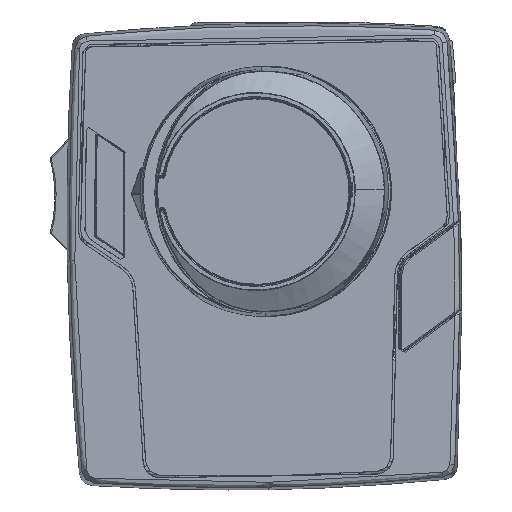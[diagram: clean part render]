
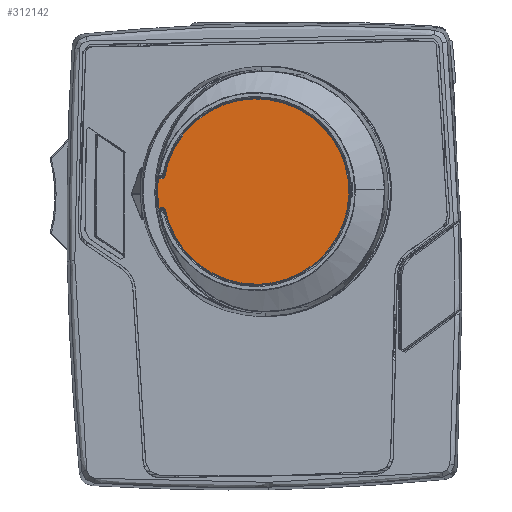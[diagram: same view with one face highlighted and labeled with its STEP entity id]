
A CAD part, front view. The second image highlights one B-rep face of the part: STEP entity #312142.
In plain terms, the highlighted planar face has unit normal (0, -1, 0) as drawn and (0, 0, -1) by its records, which use the part's own axes.
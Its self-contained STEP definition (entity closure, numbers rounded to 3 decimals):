
#21890 = CARTESIAN_POINT ( 'NONE',  ( 26.951, 18.787, 93.5 ) ) ;
#33717 = ORIENTED_EDGE ( 'NONE', *, *, #77143, .F. ) ;
#35346 = DIRECTION ( 'NONE',  ( 0., 1., 0. ) ) ;
#39954 = VECTOR ( 'NONE', #513714, 1000. ) ;
#66555 = CARTESIAN_POINT ( 'NONE',  ( 17.303, 20.467, 93.5 ) ) ;
#74202 = VERTEX_POINT ( 'NONE', #399307 ) ;
#77143 = EDGE_CURVE ( 'NONE', #74202, #470065, #362843, .T. ) ;
#79730 =( BOUNDED_CURVE ( )  B_SPLINE_CURVE ( 3, ( #636434, #578293, #423994, #633042 ),
 .UNSPECIFIED., .F., .F. ) 
 B_SPLINE_CURVE_WITH_KNOTS ( ( 4, 4 ),
 ( 0., 1. ),
 .UNSPECIFIED. ) 
 CURVE ( )  GEOMETRIC_REPRESENTATION_ITEM ( )  RATIONAL_B_SPLINE_CURVE ( ( 1., 0.993, 0.993, 1. ) ) 
 REPRESENTATION_ITEM ( '' )  );
#93711 =( BOUNDED_CURVE ( )  B_SPLINE_CURVE ( 3, ( #547762, #434617, #592320, #287249 ),
 .UNSPECIFIED., .F., .F. ) 
 B_SPLINE_CURVE_WITH_KNOTS ( ( 4, 4 ),
 ( 0., 0.235 ),
 .UNSPECIFIED. ) 
 CURVE ( )  GEOMETRIC_REPRESENTATION_ITEM ( )  RATIONAL_B_SPLINE_CURVE ( ( 1., 0.844, 0.844, 1. ) ) 
 REPRESENTATION_ITEM ( '' )  );
#129583 = CARTESIAN_POINT ( 'NONE',  ( 10.697, 20.467, 93.5 ) ) ;
#162475 = CARTESIAN_POINT ( 'NONE',  ( -5.253, 1.5, 93.5 ) ) ;
#167818 = VERTEX_POINT ( 'NONE', #129583 ) ;
#178834 = EDGE_CURVE ( 'NONE', #602732, #378435, #249972, .T. ) ;
#180194 = CARTESIAN_POINT ( 'NONE',  ( 33.253, 1.5, 93.5 ) ) ;
#185363 = CARTESIAN_POINT ( 'NONE',  ( 17.086, 20.626, 93.5 ) ) ;
#196724 = CARTESIAN_POINT ( 'NONE',  ( 10.697, 20.467, 93.5 ) ) ;
#201019 = CARTESIAN_POINT ( 'NONE',  ( 17.055, 20.763, 93.5 ) ) ;
#211169 = VERTEX_POINT ( 'NONE', #201019 ) ;
#213027 = EDGE_CURVE ( 'NONE', #211169, #440861, #299042, .T. ) ;
#213762 = CARTESIAN_POINT ( 'NONE',  ( 33.253, 1.5, 93.5 ) ) ;
#216588 = EDGE_CURVE ( 'NONE', #378435, #167818, #225766, .T. ) ;
#220744 = CARTESIAN_POINT ( 'NONE',  ( 33.253, 11.292, 93.5 ) ) ;
#222251 = ORIENTED_EDGE ( 'NONE', *, *, #420215, .F. ) ;
#225766 = B_SPLINE_CURVE_WITH_KNOTS ( 'NONE', 3,
 ( #504929, #453435, #247961, #665824, #196724 ),
 .UNSPECIFIED., .F., .F.,
 ( 4, 1, 4 ),
 ( 0., 0.571, 1. ),
 .UNSPECIFIED. ) ;
#234400 = ORIENTED_EDGE ( 'NONE', *, *, #667932, .F. ) ;
#244335 = CARTESIAN_POINT ( 'NONE',  ( 17.055, 12.648, 93.5 ) ) ;
#247961 = CARTESIAN_POINT ( 'NONE',  ( 10.886, 20.544, 93.5 ) ) ;
#249237 = EDGE_CURVE ( 'NONE', #470065, #665537, #270779, .T. ) ;
#249972 = LINE ( 'NONE', #304715, #39954 ) ;
#255900 = CARTESIAN_POINT ( 'NONE',  ( 17.061, 20.694, 93.5 ) ) ;
#268442 = CARTESIAN_POINT ( 'NONE',  ( 33.253, -37.006, 93.5 ) ) ;
#270779 =( BOUNDED_CURVE ( )  B_SPLINE_CURVE ( 3, ( #391699, #220744, #21890, #66555 ),
 .UNSPECIFIED., .F., .F. ) 
 B_SPLINE_CURVE_WITH_KNOTS ( ( 4, 4 ),
 ( 0.765, 1. ),
 .UNSPECIFIED. ) 
 CURVE ( )  GEOMETRIC_REPRESENTATION_ITEM ( )  RATIONAL_B_SPLINE_CURVE ( ( 1., 0.844, 0.844, 1. ) ) 
 REPRESENTATION_ITEM ( '' )  );
#287249 = CARTESIAN_POINT ( 'NONE',  ( -5.253, 1.5, 93.5 ) ) ;
#291303 = ORIENTED_EDGE ( 'NONE', *, *, #178834, .F. ) ;
#299042 = LINE ( 'NONE', #244335, #671160 ) ;
#304715 = CARTESIAN_POINT ( 'NONE',  ( 10.945, 11.888, 93.5 ) ) ;
#312142 = ADVANCED_FACE ( 'NONE', ( #602955 ), #561680, .F. ) ;
#333406 = CARTESIAN_POINT ( 'NONE',  ( 10.945, 20.763, 93.5 ) ) ;
#362843 =( BOUNDED_CURVE ( )  B_SPLINE_CURVE ( 3, ( #162475, #580284, #268442, #213762 ),
 .UNSPECIFIED., .F., .F. ) 
 B_SPLINE_CURVE_WITH_KNOTS ( ( 4, 4 ),
 ( 0.235, 0.765 ),
 .UNSPECIFIED. ) 
 CURVE ( )  GEOMETRIC_REPRESENTATION_ITEM ( )  RATIONAL_B_SPLINE_CURVE ( ( 1., 0.333, 0.333, 1. ) ) 
 REPRESENTATION_ITEM ( '' )  );
#378435 = VERTEX_POINT ( 'NONE', #333406 ) ;
#391699 = CARTESIAN_POINT ( 'NONE',  ( 33.253, 1.5, 93.5 ) ) ;
#395843 = ORIENTED_EDGE ( 'NONE', *, *, #216588, .F. ) ;
#399307 = CARTESIAN_POINT ( 'NONE',  ( -5.253, 1.5, 93.5 ) ) ;
#410042 = CARTESIAN_POINT ( 'NONE',  ( 17.303, 20.467, 93.5 ) ) ;
#413373 = CARTESIAN_POINT ( 'NONE',  ( 17.055, 20.763, 93.5 ) ) ;
#420215 = EDGE_CURVE ( 'NONE', #167818, #74202, #93711, .T. ) ;
#423852 = ORIENTED_EDGE ( 'NONE', *, *, #213027, .F. ) ;
#423994 = CARTESIAN_POINT ( 'NONE',  ( 12.974, 22.079, 93.5 ) ) ;
#431149 = CARTESIAN_POINT ( 'NONE',  ( 17.055, 21.778, 93.5 ) ) ;
#434617 = CARTESIAN_POINT ( 'NONE',  ( 1.049, 18.787, 93.5 ) ) ;
#434801 = CARTESIAN_POINT ( 'NONE',  ( 17.303, 20.467, 93.5 ) ) ;
#440861 = VERTEX_POINT ( 'NONE', #431149 ) ;
#442045 = CARTESIAN_POINT ( 'NONE',  ( 17.055, 20.727, 93.5 ) ) ;
#443378 = ORIENTED_EDGE ( 'NONE', *, *, #581390, .T. ) ;
#453435 = CARTESIAN_POINT ( 'NONE',  ( 10.945, 20.683, 93.5 ) ) ;
#464802 = CARTESIAN_POINT ( 'NONE',  ( 17.172, 20.514, 93.5 ) ) ;
#470065 = VERTEX_POINT ( 'NONE', #180194 ) ;
#477133 = CARTESIAN_POINT ( 'NONE',  ( 10.945, 21.778, 93.5 ) ) ;
#493236 = CARTESIAN_POINT ( 'NONE',  ( 14., 3., 93.5 ) ) ;
#501256 = B_SPLINE_CURVE_WITH_KNOTS ( 'NONE', 3,
 ( #413373, #442045, #255900, #185363, #657828, #464802, #654489, #410042 ),
 .UNSPECIFIED., .F., .F.,
 ( 4, 2, 2, 4 ),
 ( 0., 0.25, 0.5, 1. ),
 .UNSPECIFIED. ) ;
#504929 = CARTESIAN_POINT ( 'NONE',  ( 10.945, 20.763, 93.5 ) ) ;
#513714 = DIRECTION ( 'NONE',  ( 0., -1., 0. ) ) ;
#547762 = CARTESIAN_POINT ( 'NONE',  ( 10.697, 20.467, 93.5 ) ) ;
#548192 = DIRECTION ( 'NONE',  ( 0., 0., 1. ) ) ;
#551607 = DIRECTION ( 'NONE',  ( 1., 0., 0. ) ) ;
#561680 = PLANE ( 'NONE',  #664800 ) ;
#578293 = CARTESIAN_POINT ( 'NONE',  ( 15.026, 22.079, 93.5 ) ) ;
#580284 = CARTESIAN_POINT ( 'NONE',  ( -5.253, -37.006, 93.5 ) ) ;
#581390 = EDGE_CURVE ( 'NONE', #211169, #665537, #501256, .T. ) ;
#592320 = CARTESIAN_POINT ( 'NONE',  ( -5.253, 11.292, 93.5 ) ) ;
#602732 = VERTEX_POINT ( 'NONE', #477133 ) ;
#602955 = FACE_OUTER_BOUND ( 'NONE', #666432, .T. ) ;
#630381 = ORIENTED_EDGE ( 'NONE', *, *, #249237, .F. ) ;
#633042 = CARTESIAN_POINT ( 'NONE',  ( 10.945, 21.778, 93.5 ) ) ;
#636434 = CARTESIAN_POINT ( 'NONE',  ( 17.055, 21.778, 93.5 ) ) ;
#654489 = CARTESIAN_POINT ( 'NONE',  ( 17.232, 20.48, 93.5 ) ) ;
#657828 = CARTESIAN_POINT ( 'NONE',  ( 17.102, 20.598, 93.5 ) ) ;
#664800 = AXIS2_PLACEMENT_3D ( 'NONE', #493236, #548192, #551607 ) ;
#665537 = VERTEX_POINT ( 'NONE', #434801 ) ;
#665824 = CARTESIAN_POINT ( 'NONE',  ( 10.756, 20.478, 93.5 ) ) ;
#666432 = EDGE_LOOP ( 'NONE', ( #222251, #395843, #291303, #234400, #423852, #443378, #630381, #33717 ) ) ;
#667932 = EDGE_CURVE ( 'NONE', #440861, #602732, #79730, .T. ) ;
#671160 = VECTOR ( 'NONE', #35346, 1000. ) ;
